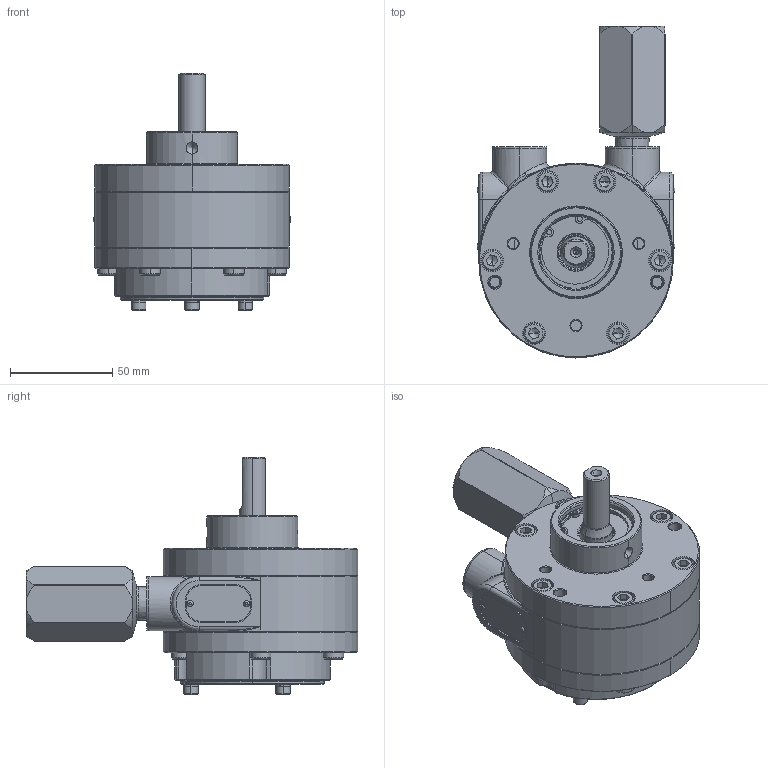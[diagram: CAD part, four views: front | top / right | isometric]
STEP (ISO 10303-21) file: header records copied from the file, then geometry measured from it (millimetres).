
FILE_DESCRIPTION (( 'STEP AP214' ), '1' );
FILE_NAME ('2VMT-Hub (Alu. End Plates)_23-04-26.STEP', '2026-04-23T10:32:13', ( '' ), ( '' ), 'SwSTEP 2.0', 'SolidWorks 2017', '' );
FILE_SCHEMA (( 'AUTOMOTIVE_DESIGN' ));
Length unit declared in the file: millimetre
Products named in the file (2): 2VMT-Hub (Alu. End Plates)_23-04-26
Bounding box: 96.6 x 162 x 115.85 mm (x, y, z)
Surface area: 111863.8 mm2 (no closed solid volume)
Topology: 0 solids, 41 shells, 1109 faces, 2867 edges, 1840 vertices
Faces by surface type: plane 465, cylinder 362, cone 183, bspline 99
Entity records: 46987 total; most frequent: CARTESIAN_POINT 11852, DIRECTION 5728, ORIENTED_EDGE 5413, EDGE_CURVE 2813, AXIS2_PLACEMENT_3D 2178, VERTEX_POINT 1836, VECTOR 1372, LINE 1372
